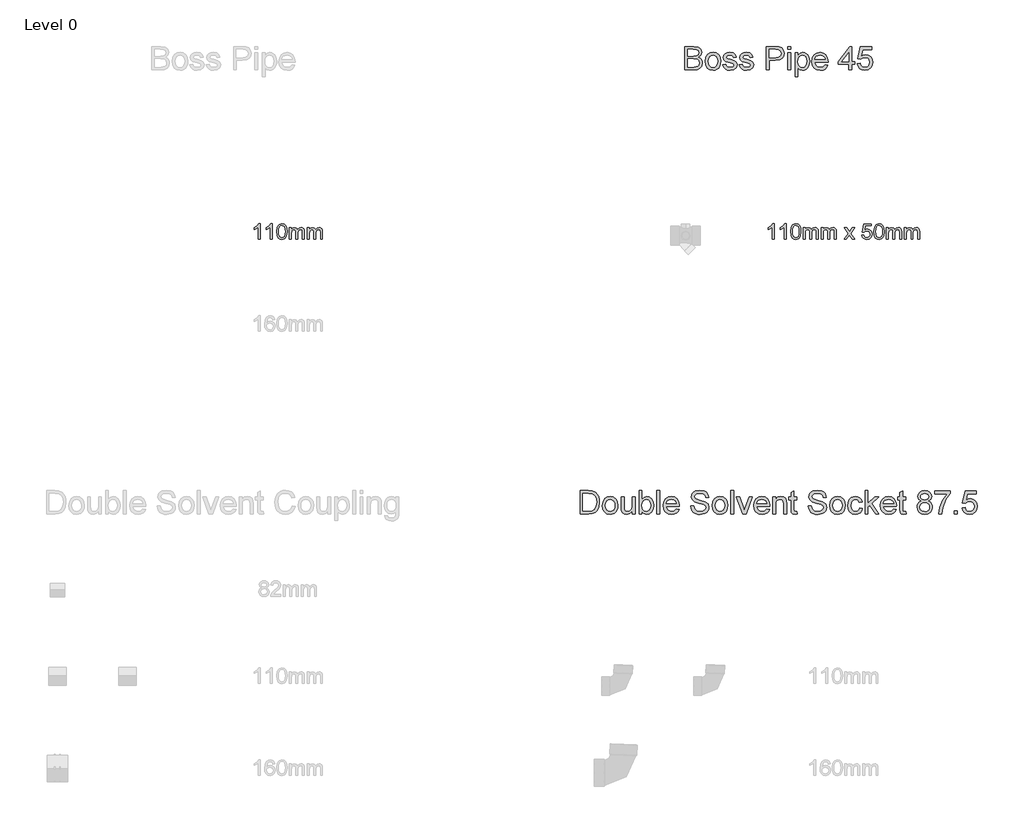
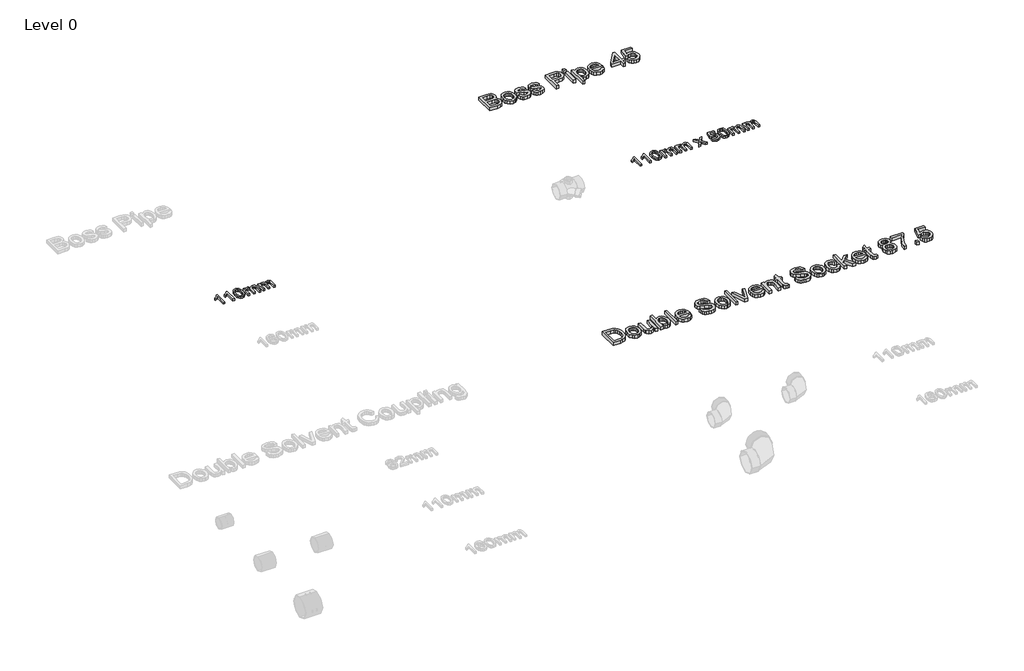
# One storey, part 28 of 28: 4 proxies.
"""IFC4 building model written with IfcOpenShell, lengths in millimetres."""

from ifc_helpers import new_model, si_unit, origin, origin_with_axes, place, context, project, spatial, polyline, outline, extrude, element, save

model = new_model("IFC4")

# Units and contexts
model_context = context("Model", 3, world=origin())
ifc_project = project(units=[si_unit("LENGTHUNIT", "METRE", prefix="MILLI")], contexts=[model_context])

# Site, building, storey
site = spatial("IfcSite", under=ifc_project)
building = spatial("IfcBuilding", under=site)
storey = spatial("IfcBuildingStorey", under=building, Name="Level 0", Elevation=0.0)

# Proxies
placement = place(None, origin())
element("IfcBuildingElementProxy", 1, Name="100mm Arial", ObjectType="100mm Arial", at=placement, inside=storey, context=model_context, shape_type="SweptSolid", body=[
    extrude(outline(polyline([(208.2706812, 8237.7167304), (195.9629889, 8237.7167304), (195.9629889, 8314.4474996), (184.3043351, 8306.1422111), (171.3476043, 8299.9282688), (171.3476043, 8311.5628842), (189.3884697, 8323.0773073), (200.3379889, 8336.1782688), (208.2706812, 8336.1782688), (208.2706812, 8237.7167304)])), origin_with_axes(), (0.0, 0.0, 1.0), 15.0),
    extrude(outline(polyline([(283.6552966, 8237.7167304), (271.3476043, 8237.7167304), (271.3476043, 8314.4474996), (259.6889505, 8306.1422111), (246.7322197, 8299.9282688), (246.7322197, 8311.5628842), (264.7730851, 8323.0773073), (275.7226043, 8336.1782688), (283.6552966, 8336.1782688), (283.6552966, 8237.7167304)])), origin_with_axes(), (0.0, 0.0, 1.0), 15.0),
    extrude(outline(polyline([(312.8860659, 8286.1542304), (316.5038543, 8314.4835573), (327.2490466, 8330.8176919), (345.1937582, 8336.1782688), (359.5687582, 8333.0051919), (369.4966428, 8323.8585573), (375.2658736, 8309.2912496), (377.5014505, 8286.1542304), (373.9197197, 8257.9450958), (363.2105851, 8241.5749035), (345.1937582, 8236.1782688), (332.4052966, 8238.5220188), (322.6937582, 8245.5532688), (315.3379889, 8262.2059131), (312.8860659, 8286.1542304)]), holes=[polyline([(325.1937582, 8286.1782688), (326.6360659, 8266.8182929), (330.9629889, 8255.613365), (337.4052966, 8250.2678121), (345.1937582, 8248.4859611), (352.9822197, 8250.2738217), (359.4245274, 8255.6374035), (363.7514505, 8266.848341), (365.1937582, 8286.1782688), (363.7995274, 8305.1025477), (359.6168351, 8316.394615), (353.1865466, 8322.0015861), (345.0495274, 8323.8705765), (337.3452005, 8322.2239419), (331.1552966, 8317.2840381), (326.6841428, 8305.2888458), (325.1937582, 8286.1782688)])]), origin_with_axes(), (0.0, 0.0, 1.0), 15.0),
    extrude(outline(polyline([(391.3476043, 8237.7167304), (391.3476043, 8310.0244227), (403.6552966, 8310.0244227), (403.6552966, 8298.1253842), (412.1168351, 8307.8729804), (424.1601043, 8311.5628842), (436.4918351, 8307.800865), (443.2706812, 8297.2599996), (452.8740466, 8307.9871631), (465.0014505, 8311.5628842), (474.2532534, 8310.0755044), (481.0952005, 8305.613365), (485.3229649, 8298.0562736), (486.7322197, 8287.2840381), (486.7322197, 8237.7167304), (474.4245274, 8237.7167304), (474.4245274, 8281.9955765), (473.2827005, 8292.2720188), (469.1480851, 8297.332115), (462.1168351, 8299.2551919), (450.0134697, 8294.3273073), (445.1937582, 8278.5340381), (445.1937582, 8237.7167304), (432.8860659, 8237.7167304), (432.8860659, 8283.3657688), (430.0375082, 8295.2888458), (420.6985659, 8299.2551919), (411.5879889, 8296.6109611), (405.5302966, 8288.8705765), (403.6552966, 8274.1830765), (403.6552966, 8237.7167304), (391.3476043, 8237.7167304)])), origin_with_axes(), (0.0, 0.0, 1.0), 15.0),
    extrude(outline(polyline([(505.1937582, 8237.7167304), (505.1937582, 8310.0244227), (517.5014505, 8310.0244227), (517.5014505, 8298.1253842), (525.9629889, 8307.8729804), (538.0062582, 8311.5628842), (550.3379889, 8307.800865), (557.1168351, 8297.2599996), (566.7202005, 8307.9871631), (578.8476043, 8311.5628842), (588.0994072, 8310.0755044), (594.9413543, 8305.613365), (599.1691187, 8298.0562736), (600.5783736, 8287.2840381), (600.5783736, 8237.7167304), (588.2706812, 8237.7167304), (588.2706812, 8281.9955765), (587.1288543, 8292.2720188), (582.9942389, 8297.332115), (575.9629889, 8299.2551919), (563.8596236, 8294.3273073), (559.039912, 8278.5340381), (559.039912, 8237.7167304), (546.7322197, 8237.7167304), (546.7322197, 8283.3657688), (543.883662, 8295.2888458), (534.5447197, 8299.2551919), (525.4341428, 8296.6109611), (519.3764505, 8288.8705765), (517.5014505, 8274.1830765), (517.5014505, 8237.7167304), (505.1937582, 8237.7167304)])), origin_with_axes(), (0.0, 0.0, 1.0), 15.0),
])
element("IfcBuildingElementProxy", 2, Name="100mm Arial", ObjectType="100mm Arial", at=placement, inside=storey, context=model_context, shape_type="SweptSolid", body=[
    extrude(outline(polyline([(3445.9629889, 8237.7167304), (3433.6552966, 8237.7167304), (3433.6552966, 8314.4474996), (3421.9966428, 8306.1422111), (3409.039912, 8299.9282688), (3409.039912, 8311.5628842), (3427.0807774, 8323.0773073), (3438.0302966, 8336.1782688), (3445.9629889, 8336.1782688), (3445.9629889, 8237.7167304)])), origin_with_axes(), (0.0, 0.0, 1.0), 15.0),
    extrude(outline(polyline([(3521.3476043, 8237.7167304), (3509.039912, 8237.7167304), (3509.039912, 8314.4474996), (3497.3812582, 8306.1422111), (3484.4245274, 8299.9282688), (3484.4245274, 8311.5628842), (3502.4653928, 8323.0773073), (3513.414912, 8336.1782688), (3521.3476043, 8336.1782688), (3521.3476043, 8237.7167304)])), origin_with_axes(), (0.0, 0.0, 1.0), 15.0),
    extrude(outline(polyline([(3550.5783736, 8286.1542304), (3554.196162, 8314.4835573), (3564.9413543, 8330.8176919), (3582.8860659, 8336.1782688), (3597.2610659, 8333.0051919), (3607.1889505, 8323.8585573), (3612.9581812, 8309.2912496), (3615.1937582, 8286.1542304), (3611.6120274, 8257.9450958), (3600.9028928, 8241.5749035), (3582.8860659, 8236.1782688), (3570.0976043, 8238.5220188), (3560.3860659, 8245.5532688), (3553.0302966, 8262.2059131), (3550.5783736, 8286.1542304)]), holes=[polyline([(3562.8860659, 8286.1782688), (3564.3283736, 8266.8182929), (3568.6552966, 8255.613365), (3575.0976043, 8250.2678121), (3582.8860659, 8248.4859611), (3590.6745274, 8250.2738217), (3597.1168351, 8255.6374035), (3601.4437582, 8266.848341), (3602.8860659, 8286.1782688), (3601.4918351, 8305.1025477), (3597.3091428, 8316.394615), (3590.8788543, 8322.0015861), (3582.7418351, 8323.8705765), (3575.0375082, 8322.2239419), (3568.8476043, 8317.2840381), (3564.3764505, 8305.2888458), (3562.8860659, 8286.1782688)])]), origin_with_axes(), (0.0, 0.0, 1.0), 15.0),
    extrude(outline(polyline([(3629.039912, 8237.7167304), (3629.039912, 8310.0244227), (3641.3476043, 8310.0244227), (3641.3476043, 8298.1253842), (3649.8091428, 8307.8729804), (3661.852412, 8311.5628842), (3674.1841428, 8307.800865), (3680.9629889, 8297.2599996), (3690.5663543, 8307.9871631), (3702.6937582, 8311.5628842), (3711.9455611, 8310.0755044), (3718.7875082, 8305.613365), (3723.0152726, 8298.0562736), (3724.4245274, 8287.2840381), (3724.4245274, 8237.7167304), (3712.1168351, 8237.7167304), (3712.1168351, 8281.9955765), (3710.9750082, 8292.2720188), (3706.8403928, 8297.332115), (3699.8091428, 8299.2551919), (3687.7057774, 8294.3273073), (3682.8860659, 8278.5340381), (3682.8860659, 8237.7167304), (3670.5783736, 8237.7167304), (3670.5783736, 8283.3657688), (3667.7298159, 8295.2888458), (3658.3908736, 8299.2551919), (3649.2802966, 8296.6109611), (3643.2226043, 8288.8705765), (3641.3476043, 8274.1830765), (3641.3476043, 8237.7167304), (3629.039912, 8237.7167304)])), origin_with_axes(), (0.0, 0.0, 1.0), 15.0),
    extrude(outline(polyline([(3742.8860659, 8237.7167304), (3742.8860659, 8310.0244227), (3755.1937582, 8310.0244227), (3755.1937582, 8298.1253842), (3763.6552966, 8307.8729804), (3775.6985659, 8311.5628842), (3788.0302966, 8307.800865), (3794.8091428, 8297.2599996), (3804.4125082, 8307.9871631), (3816.539912, 8311.5628842), (3825.7917149, 8310.0755044), (3832.633662, 8305.613365), (3836.8614264, 8298.0562736), (3838.2706812, 8287.2840381), (3838.2706812, 8237.7167304), (3825.9629889, 8237.7167304), (3825.9629889, 8281.9955765), (3824.821162, 8292.2720188), (3820.6865466, 8297.332115), (3813.6552966, 8299.2551919), (3801.5519312, 8294.3273073), (3796.7322197, 8278.5340381), (3796.7322197, 8237.7167304), (3784.4245274, 8237.7167304), (3784.4245274, 8283.3657688), (3781.5759697, 8295.2888458), (3772.2370274, 8299.2551919), (3763.1264505, 8296.6109611), (3757.0687582, 8288.8705765), (3755.1937582, 8274.1830765), (3755.1937582, 8237.7167304), (3742.8860659, 8237.7167304)])), origin_with_axes(), (0.0, 0.0, 1.0), 15.0),
    extrude(outline(polyline([(3887.5014505, 8237.7167304), (3913.7995274, 8274.0628842), (3889.039912, 8310.0244227), (3903.8476043, 8310.0244227), (3915.7947197, 8292.7167304), (3921.3716428, 8284.5436535), (3926.2033736, 8291.2263458), (3939.8091428, 8310.0244227), (3954.6168351, 8310.0244227), (3928.6072197, 8274.0628842), (3953.6552966, 8237.7167304), (3938.8476043, 8237.7167304), (3923.7754889, 8259.5676919), (3921.0110659, 8263.5580765), (3902.3091428, 8237.7167304), (3887.5014505, 8237.7167304)])), origin_with_axes(), (0.0, 0.0, 1.0), 15.0),
    extrude(outline(polyline([(3999.8091428, 8263.8705765), (4012.1168351, 8265.4090381), (4018.3187582, 8252.7287496), (4031.1793351, 8248.4859611), (4040.0014505, 8249.9613217), (4046.6120274, 8254.3874035), (4050.7406332, 8261.253389), (4052.1168351, 8270.0484611), (4046.9605851, 8284.6638458), (4040.4852245, 8288.6842785), (4031.3716428, 8290.0244227), (4020.5663543, 8287.8849996), (4013.6552966, 8282.332115), (4001.3476043, 8283.8705765), (4012.1168351, 8334.6398073), (4059.8091428, 8334.6398073), (4059.8091428, 8322.332115), (4022.0687582, 8322.332115), (4016.8043351, 8295.2167304), (4025.5964024, 8300.5532688), (4034.8091428, 8302.332115), (4046.3085418, 8300.1265861), (4055.8548159, 8293.5099996), (4062.2820995, 8283.425865), (4064.4245274, 8270.8176919), (4062.4954409, 8258.5099996), (4056.7081812, 8247.9811535), (4045.6264505, 8239.12899), (4031.1312582, 8236.1782688), (4019.0429168, 8238.0743025), (4009.4125082, 8243.7624035), (4002.8109457, 8252.581514), (3999.8091428, 8263.8705765)])), origin_with_axes(), (0.0, 0.0, 1.0), 15.0),
    extrude(outline(polyline([(4075.1937582, 8286.1542304), (4078.8115466, 8314.4835573), (4089.5567389, 8330.8176919), (4107.5014505, 8336.1782688), (4121.8764505, 8333.0051919), (4131.8043351, 8323.8585573), (4137.5735659, 8309.2912496), (4139.8091428, 8286.1542304), (4136.227412, 8257.9450958), (4125.5182774, 8241.5749035), (4107.5014505, 8236.1782688), (4094.7129889, 8238.5220188), (4085.0014505, 8245.5532688), (4077.6456812, 8262.2059131), (4075.1937582, 8286.1542304)]), holes=[polyline([(4087.5014505, 8286.1782688), (4088.9437582, 8266.8182929), (4093.2706812, 8255.613365), (4099.7129889, 8250.2678121), (4107.5014505, 8248.4859611), (4115.289912, 8250.2738217), (4121.7322197, 8255.6374035), (4126.0591428, 8266.848341), (4127.5014505, 8286.1782688), (4126.1072197, 8305.1025477), (4121.9245274, 8316.394615), (4115.4942389, 8322.0015861), (4107.3572197, 8323.8705765), (4099.6528928, 8322.2239419), (4093.4629889, 8317.2840381), (4088.9918351, 8305.2888458), (4087.5014505, 8286.1782688)])]), origin_with_axes(), (0.0, 0.0, 1.0), 15.0),
    extrude(outline(polyline([(4153.6552966, 8237.7167304), (4153.6552966, 8310.0244227), (4165.9629889, 8310.0244227), (4165.9629889, 8298.1253842), (4174.4245274, 8307.8729804), (4186.4677966, 8311.5628842), (4198.7995274, 8307.800865), (4205.5783736, 8297.2599996), (4215.1817389, 8307.9871631), (4227.3091428, 8311.5628842), (4236.5609457, 8310.0755044), (4243.4028928, 8305.613365), (4247.6306572, 8298.0562736), (4249.039912, 8287.2840381), (4249.039912, 8237.7167304), (4236.7322197, 8237.7167304), (4236.7322197, 8281.9955765), (4235.5903928, 8292.2720188), (4231.4557774, 8297.332115), (4224.4245274, 8299.2551919), (4212.321162, 8294.3273073), (4207.5014505, 8278.5340381), (4207.5014505, 8237.7167304), (4195.1937582, 8237.7167304), (4195.1937582, 8283.3657688), (4192.3452005, 8295.2888458), (4183.0062582, 8299.2551919), (4173.8956812, 8296.6109611), (4167.8379889, 8288.8705765), (4165.9629889, 8274.1830765), (4165.9629889, 8237.7167304), (4153.6552966, 8237.7167304)])), origin_with_axes(), (0.0, 0.0, 1.0), 15.0),
    extrude(outline(polyline([(4267.5014505, 8237.7167304), (4267.5014505, 8310.0244227), (4279.8091428, 8310.0244227), (4279.8091428, 8298.1253842), (4288.2706812, 8307.8729804), (4300.3139505, 8311.5628842), (4312.6456812, 8307.800865), (4319.4245274, 8297.2599996), (4329.0278928, 8307.9871631), (4341.1552966, 8311.5628842), (4350.4070995, 8310.0755044), (4357.2490466, 8305.613365), (4361.4768111, 8298.0562736), (4362.8860659, 8287.2840381), (4362.8860659, 8237.7167304), (4350.5783736, 8237.7167304), (4350.5783736, 8281.9955765), (4349.4365466, 8292.2720188), (4345.3019312, 8297.332115), (4338.2706812, 8299.2551919), (4326.1673159, 8294.3273073), (4321.3476043, 8278.5340381), (4321.3476043, 8237.7167304), (4309.039912, 8237.7167304), (4309.039912, 8283.3657688), (4306.1913543, 8295.2888458), (4296.852412, 8299.2551919), (4287.7418351, 8296.6109611), (4281.6841428, 8288.8705765), (4279.8091428, 8274.1830765), (4279.8091428, 8237.7167304), (4267.5014505, 8237.7167304)])), origin_with_axes(), (0.0, 0.0, 1.0), 15.0),
])
element("IfcBuildingElementProxy", 3, Name="150mm Arial", ObjectType="150mm Arial", at=placement, inside=storey, context=model_context, shape_type="SweptSolid", body=[
    extrude(outline(polyline([(2883.6258565, 9305.2145219), (2883.6258565, 9452.9068296), (2939.9840296, 9452.9068296), (2967.586193, 9448.5618777), (2976.8620344, 9443.049558), (2983.88427, 9435.2025027), (2989.7797027, 9416.3082719), (2984.82177, 9399.0546661), (2969.8397988, 9385.9837527), (2980.3010368, 9380.5210123), (2988.0309046, 9372.2097142), (2992.8040416, 9361.5997383), (2994.3950873, 9349.2409642), (2990.0501353, 9329.3912046), (2979.2869142, 9315.2565892), (2963.2232123, 9307.7565892), (2939.5513373, 9305.2145219), (2883.6258565, 9305.2145219)]), holes=[polyline([(2902.087395, 9323.6760604), (2939.9479719, 9323.6760604), (2953.649895, 9324.3972142), (2965.242443, 9328.4176469), (2972.9227315, 9336.6207719), (2975.9335488, 9349.0606758), (2972.399895, 9363.4116373), (2960.9515777, 9371.9753392), (2938.1450873, 9374.4452911), (2902.087395, 9374.4452911), (2902.087395, 9323.6760604)]), polyline([(2902.087395, 9392.9068296), (2935.8013373, 9392.9068296), (2955.4888373, 9394.4933681), (2967.3337892, 9401.3263008), (2971.3181642, 9413.3515411), (2967.6042219, 9425.3948104), (2956.9672027, 9432.5162046), (2933.2412411, 9434.4452911), (2902.087395, 9434.4452911), (2902.087395, 9392.9068296)])]), origin_with_axes(), (0.0, 0.0, 1.0), 25.0),
    extrude(outline(polyline([(3012.8566257, 9359.4452911), (3016.8500152, 9385.5961325), (3028.8301834, 9403.9765411), (3043.6318661, 9412.9819498), (3061.3542219, 9415.9837527), (3080.7487531, 9412.3284041), (3096.2400392, 9401.3623585), (3106.3947868, 9383.9510003), (3109.7797027, 9360.9597142), (3108.2833084, 9342.3088729), (3103.7941257, 9328.1111565), (3096.4428637, 9317.4786445), (3086.3602315, 9309.5234161), (3074.3845704, 9304.5609762), (3061.3542219, 9302.9068296), (3041.7253156, 9306.5486565), (3026.2520584, 9317.4741373), (3016.2054839, 9335.2505796), (3012.8566257, 9359.4452911)]), holes=[polyline([(3031.3181642, 9359.4813488), (3033.4545825, 9342.7731157), (3039.8638373, 9330.86957), (3049.50927, 9323.7436686), (3061.3542219, 9321.3683681), (3073.1450873, 9323.7571902), (3082.7724911, 9330.9236565), (3089.1817459, 9342.9849546), (3091.3181642, 9360.0582719), (3089.1682243, 9376.2797262), (3082.7184046, 9388.0210123), (3073.0774791, 9395.1469137), (3061.3542219, 9397.5222142), (3049.50927, 9395.1559282), (3039.8638373, 9388.05707), (3033.4545825, 9376.1805676), (3031.3181642, 9359.4813488)])]), origin_with_axes(), (0.0, 0.0, 1.0), 25.0),
    extrude(outline(polyline([(3123.6258565, 9337.5222142), (3142.087395, 9339.8299065), (3144.9990536, 9331.9332719), (3150.633068, 9326.1279835), (3170.212395, 9321.3683681), (3189.0345103, 9325.7313488), (3195.164318, 9335.9717335), (3188.9984527, 9344.2650027), (3169.9960488, 9349.5294258), (3142.195568, 9358.5618777), (3130.0621546, 9369.1087527), (3125.9335488, 9384.0005796), (3129.2508565, 9397.7565892), (3138.3013373, 9408.2674065), (3150.0381161, 9413.7301469), (3165.9215296, 9415.9837527), (3188.3854719, 9412.3599546), (3202.664318, 9402.5522623), (3209.0104719, 9385.9837527), (3190.5489334, 9383.6760604), (3183.6078277, 9393.8623585), (3167.3638373, 9397.5222142), (3149.695568, 9394.0246181), (3144.3950873, 9385.8755796), (3146.5946065, 9380.5029835), (3153.4816257, 9376.4284642), (3169.383068, 9372.4981758), (3196.4804238, 9363.8082719), (3209.0645584, 9353.9645219), (3213.6258565, 9337.9188488), (3208.2712892, 9320.2505796), (3192.820568, 9307.43207), (3169.9599911, 9302.9068296), (3151.3452075, 9305.08832), (3137.7604719, 9311.6327911), (3128.6919623, 9322.4681277), (3123.6258565, 9337.5222142)])), origin_with_axes(), (0.0, 0.0, 1.0), 25.0),
    extrude(outline(polyline([(3227.4720103, 9337.5222142), (3245.9335488, 9339.8299065), (3248.8452075, 9331.9332719), (3254.4792219, 9326.1279835), (3274.0585488, 9321.3683681), (3292.8806642, 9325.7313488), (3299.0104719, 9335.9717335), (3292.8446065, 9344.2650027), (3273.8422027, 9349.5294258), (3246.0417219, 9358.5618777), (3233.9083084, 9369.1087527), (3229.7797027, 9384.0005796), (3233.0970103, 9397.7565892), (3242.1474911, 9408.2674065), (3253.88427, 9413.7301469), (3269.7676834, 9415.9837527), (3292.2316257, 9412.3599546), (3306.5104719, 9402.5522623), (3312.8566257, 9385.9837527), (3294.3950873, 9383.6760604), (3287.4539815, 9393.8623585), (3271.2099911, 9397.5222142), (3253.5417219, 9394.0246181), (3248.2412411, 9385.8755796), (3250.4407603, 9380.5029835), (3257.3277796, 9376.4284642), (3273.2292219, 9372.4981758), (3300.3265777, 9363.8082719), (3312.9107123, 9353.9645219), (3317.4720103, 9337.9188488), (3312.117443, 9320.2505796), (3296.6667219, 9307.43207), (3273.806145, 9302.9068296), (3255.1913613, 9305.08832), (3241.6066257, 9311.6327911), (3232.5381161, 9322.4681277), (3227.4720103, 9337.5222142)])), origin_with_axes(), (0.0, 0.0, 1.0), 25.0),
    extrude(outline(polyline([(3398.2412411, 9305.2145219), (3398.2412411, 9452.9068296), (3452.976818, 9452.9068296), (3475.0441257, 9451.5005796), (3492.9828277, 9444.5955315), (3504.6114334, 9430.3166854), (3509.0104719, 9410.1784642), (3506.0402195, 9392.7716133), (3497.1294623, 9378.2674065), (3480.4663012, 9368.4777431), (3454.2388373, 9365.2145219), (3416.7027796, 9365.2145219), (3416.7027796, 9305.2145219), (3398.2412411, 9305.2145219)]), holes=[polyline([(3416.7027796, 9383.6760604), (3455.320568, 9383.6760604), (3471.6907603, 9385.3707719), (3482.508068, 9390.4549065), (3488.5387171, 9398.6129594), (3490.5489334, 9409.5294258), (3485.8073469, 9424.8178873), (3473.3494142, 9433.1832719), (3454.8878757, 9434.4452911), (3416.7027796, 9434.4452911), (3416.7027796, 9383.6760604)])]), origin_with_axes(), (0.0, 0.0, 1.0), 25.0),
    extrude(outline(polyline([(3532.087395, 9434.4452911), (3532.087395, 9452.9068296), (3550.5489334, 9452.9068296), (3550.5489334, 9434.4452911), (3532.087395, 9434.4452911)])), origin_with_axes(), (0.0, 0.0, 1.0), 25.0),
    extrude(outline(polyline([(3532.087395, 9305.2145219), (3532.087395, 9413.6760604), (3550.5489334, 9413.6760604), (3550.5489334, 9305.2145219), (3532.087395, 9305.2145219)])), origin_with_axes(), (0.0, 0.0, 1.0), 25.0),
    extrude(outline(polyline([(3578.2412411, 9263.6760604), (3578.2412411, 9413.6760604), (3596.7027796, 9413.6760604), (3596.7027796, 9395.5750988), (3609.4672027, 9410.8815892), (3626.7027796, 9415.9837527), (3639.1877555, 9414.1988969), (3650.1042219, 9408.8443296), (3658.992443, 9400.24457), (3665.3926834, 9388.7241373), (3670.5489334, 9360.2746181), (3669.0931041, 9344.4858561), (3664.7256161, 9330.3647623), (3657.586193, 9318.6279835), (3647.8145584, 9309.9921661), (3636.4338493, 9304.6781637), (3624.4672027, 9302.9068296), (3608.4035007, 9307.6484161), (3596.7027796, 9319.6375988), (3596.7027796, 9263.6760604), (3578.2412411, 9263.6760604)]), holes=[polyline([(3596.7027796, 9358.5799065), (3598.6994743, 9342.0294258), (3604.6895584, 9330.4549065), (3613.5282003, 9323.6400027), (3624.070568, 9321.3683681), (3634.7842099, 9323.7211325), (3643.8482123, 9330.7794258), (3650.0275993, 9342.7776229), (3652.087395, 9359.9500988), (3650.0771786, 9376.4104354), (3644.0465296, 9388.1472142), (3635.2214094, 9395.1784642), (3624.8277796, 9397.5222142), (3614.3935849, 9395.0297262), (3605.2304238, 9387.5522623), (3598.8346906, 9375.3241974), (3596.7027796, 9358.5799065)])]), origin_with_axes(), (0.0, 0.0, 1.0), 25.0),
    extrude(outline(polyline([(3767.2556642, 9337.5222142), (3785.3566257, 9335.2145219), (3778.8346906, 9321.5756998), (3768.4275392, 9311.3803873), (3754.3695464, 9305.025219), (3736.8950873, 9302.9068296), (3715.2334286, 9306.5621782), (3698.5657603, 9317.5282238), (3687.9377555, 9335.0928272), (3684.3950873, 9358.5438488), (3687.9738132, 9382.7836325), (3698.7099911, 9400.9116373), (3715.1522988, 9412.2157238), (3735.8494142, 9415.9837527), (3755.9019983, 9412.2247383), (3771.9251353, 9400.947695), (3782.4314454, 9382.8557479), (3785.9335488, 9358.6520219), (3785.8253757, 9353.6760604), (3702.8566257, 9353.6760604), (3706.0522387, 9339.8569498), (3713.4756161, 9329.697695), (3724.1892579, 9323.4506998), (3737.2556642, 9321.3683681), (3755.3566257, 9325.2265411), (3767.2556642, 9337.5222142)]), holes=[polyline([(3702.8566257, 9372.1375988), (3767.4720103, 9372.1375988), (3764.9750152, 9381.8912046), (3760.0801834, 9388.8683681), (3749.3169623, 9395.3587527), (3735.7772988, 9397.5222142), (3723.3328878, 9395.7959522), (3713.0429238, 9390.6171661), (3705.8899791, 9382.5447503), (3702.8566257, 9372.1375988)])]), origin_with_axes(), (0.0, 0.0, 1.0), 25.0),
    extrude(outline(polyline([(3917.4720103, 9305.2145219), (3917.4720103, 9339.8299065), (3850.5489334, 9339.8299065), (3850.5489334, 9358.291445), (3922.087395, 9450.5991373), (3935.9335488, 9450.5991373), (3935.9335488, 9358.291445), (3954.3950873, 9358.291445), (3954.3950873, 9339.8299065), (3935.9335488, 9339.8299065), (3935.9335488, 9305.2145219), (3917.4720103, 9305.2145219)]), holes=[polyline([(3917.4720103, 9358.291445), (3917.4720103, 9415.3347142), (3873.2652796, 9358.291445), (3917.4720103, 9358.291445)])]), origin_with_axes(), (0.0, 0.0, 1.0), 25.0),
    extrude(outline(polyline([(3970.5489334, 9344.4452911), (3989.0104719, 9346.7529835), (3992.399895, 9335.6697503), (3998.3133565, 9327.7325508), (4006.7238132, 9322.9594137), (4017.6042219, 9321.3683681), (4030.837395, 9323.5814089), (4040.7532603, 9330.2205315), (4046.946169, 9340.5195099), (4049.0104719, 9353.7121181), (4047.0768781, 9366.1339931), (4041.2760969, 9375.635195), (4031.563056, 9381.665844), (4017.8926834, 9383.6760604), (4001.6847507, 9380.4669258), (3991.3181642, 9372.1375988), (3972.8566257, 9374.4452911), (3989.0104719, 9450.5991373), (4060.5489334, 9450.5991373), (4060.5489334, 9432.1375988), (4003.9383565, 9432.1375988), (3996.0417219, 9391.4645219), (4009.2298228, 9399.4693296), (4023.0489334, 9402.1375988), (4040.298032, 9398.8293056), (4054.617443, 9388.9044258), (4064.2583685, 9373.7782238), (4067.4720103, 9354.8659642), (4064.5783805, 9336.4044258), (4055.8974911, 9320.6111565), (4039.274895, 9307.3329113), (4017.5321065, 9302.9068296), (3999.3995945, 9305.7508801), (3984.9539815, 9314.2830315), (3975.0516378, 9327.5116974), (3970.5489334, 9344.4452911)])), origin_with_axes(), (0.0, 0.0, 1.0), 25.0),
])
element("IfcBuildingElementProxy", 4, Name="150mm Arial", ObjectType="150mm Arial", at=placement, inside=storey, context=model_context, shape_type="SweptSolid", body=[
    extrude(outline(polyline([(2223.6258565, 6505.2145219), (2223.6258565, 6652.9068296), (2274.5753757, 6652.9068296), (2300.9335488, 6650.7794258), (2322.6402796, 6640.2145219), (2332.8536209, 6628.9645219), (2340.1282603, 6614.9741373), (2344.4822267, 6598.5138008), (2345.9335488, 6579.853945), (2342.0032603, 6550.0522623), (2331.9071065, 6528.5438488), (2318.4215296, 6515.1484161), (2300.7712892, 6507.7385604), (2277.0272988, 6505.2145219), (2223.6258565, 6505.2145219)]), holes=[polyline([(2242.087395, 6523.6760604), (2274.7556642, 6523.6760604), (2298.5176834, 6526.3443296), (2312.2196065, 6533.8803873), (2323.4515777, 6552.2157238), (2327.4720103, 6580.1424065), (2325.5023589, 6600.2625988), (2319.5934046, 6615.1183681), (2310.8629358, 6625.322695), (2300.4287411, 6631.4885604), (2274.2508565, 6634.4452911), (2242.087395, 6634.4452911), (2242.087395, 6523.6760604)])]), origin_with_axes(), (0.0, 0.0, 1.0), 25.0),
    extrude(outline(polyline([(2364.3950873, 6559.4452911), (2368.3884767, 6585.5961325), (2380.368645, 6603.9765411), (2395.1703277, 6612.9819498), (2412.8926834, 6615.9837527), (2432.2872147, 6612.3284041), (2447.7785007, 6601.3623585), (2457.9332483, 6583.9510003), (2461.3181642, 6560.9597142), (2459.82177, 6542.3088729), (2455.3325873, 6528.1111565), (2447.9813253, 6517.4786445), (2437.898693, 6509.5234161), (2425.923032, 6504.5609762), (2412.8926834, 6502.9068296), (2393.2637772, 6506.5486565), (2377.79052, 6517.4741373), (2367.7439454, 6535.2505796), (2364.3950873, 6559.4452911)]), holes=[polyline([(2382.8566257, 6559.4813488), (2384.993044, 6542.7731157), (2391.4022988, 6530.86957), (2401.0477315, 6523.7436686), (2412.8926834, 6521.3683681), (2424.6835488, 6523.7571902), (2434.3109527, 6530.9236565), (2440.7202075, 6542.9849546), (2442.8566257, 6560.0582719), (2440.7066858, 6576.2797262), (2434.2568661, 6588.0210123), (2424.6159406, 6595.1469137), (2412.8926834, 6597.5222142), (2401.0477315, 6595.1559282), (2391.4022988, 6588.05707), (2384.993044, 6576.1805676), (2382.8566257, 6559.4813488)])]), origin_with_axes(), (0.0, 0.0, 1.0), 25.0),
    extrude(outline(polyline([(2551.3181642, 6505.2145219), (2551.3181642, 6523.8563488), (2536.8590296, 6508.1442094), (2518.0008565, 6502.9068296), (2500.6390777, 6506.5847142), (2488.6679238, 6515.8154835), (2483.1691257, 6529.4092335), (2482.087395, 6546.572695), (2482.087395, 6613.6760604), (2500.5489334, 6613.6760604), (2500.5489334, 6555.2625988), (2501.6667219, 6536.4404835), (2508.9684046, 6525.3888008), (2522.7244142, 6521.3683681), (2538.1390777, 6525.478945), (2548.3253757, 6536.6748585), (2551.3181642, 6557.2457719), (2551.3181642, 6613.6760604), (2569.7797027, 6613.6760604), (2569.7797027, 6505.2145219), (2551.3181642, 6505.2145219)])), origin_with_axes(), (0.0, 0.0, 1.0), 25.0),
    extrude(outline(polyline([(2613.6258565, 6505.2145219), (2595.164318, 6505.2145219), (2595.164318, 6652.9068296), (2613.6258565, 6652.9068296), (2613.6258565, 6598.135195), (2626.5525392, 6611.5216133), (2642.6162411, 6615.9837527), (2661.1138373, 6611.96332), (2675.4647988, 6600.6592335), (2684.2809046, 6583.0811085), (2687.4720103, 6561.0678873), (2684.1682243, 6536.4224546), (2674.2568661, 6518.0871181), (2659.7120945, 6506.7019017), (2642.508068, 6502.9068296), (2626.0928036, 6507.8016613), (2613.6258565, 6522.4861565), (2613.6258565, 6505.2145219)]), holes=[polyline([(2613.6258565, 6560.2025027), (2614.8878757, 6544.8058681), (2618.6739334, 6534.385195), (2628.3464094, 6524.6225748), (2640.9215296, 6521.3683681), (2651.5765777, 6523.7662046), (2660.681145, 6530.9597142), (2666.9281402, 6542.9038248), (2669.0104719, 6559.5534642), (2667.0137772, 6576.4464931), (2661.023693, 6588.2553873), (2652.2030801, 6595.2055075), (2641.7147988, 6597.5222142), (2631.0597507, 6595.1243777), (2621.9551834, 6587.9308681), (2615.7081882, 6576.2031036), (2613.6258565, 6560.2025027)])]), origin_with_axes(), (0.0, 0.0, 1.0), 25.0),
    extrude(outline(polyline([(2708.2412411, 6505.2145219), (2708.2412411, 6652.9068296), (2726.7027796, 6652.9068296), (2726.7027796, 6505.2145219), (2708.2412411, 6505.2145219)])), origin_with_axes(), (0.0, 0.0, 1.0), 25.0),
    extrude(outline(polyline([(2830.3325873, 6537.5222142), (2848.4335488, 6535.2145219), (2841.9116137, 6521.5756998), (2831.5044623, 6511.3803873), (2817.4464695, 6505.025219), (2799.9720103, 6502.9068296), (2778.3103517, 6506.5621782), (2761.6426834, 6517.5282238), (2751.0146786, 6535.0928272), (2747.4720103, 6558.5438488), (2751.0507363, 6582.7836325), (2761.7869142, 6600.9116373), (2778.2292219, 6612.2157238), (2798.9263373, 6615.9837527), (2818.9789214, 6612.2247383), (2835.0020584, 6600.947695), (2845.5083685, 6582.8557479), (2849.0104719, 6558.6520219), (2848.9022988, 6553.6760604), (2765.9335488, 6553.6760604), (2769.1291618, 6539.8569498), (2776.5525392, 6529.697695), (2787.266181, 6523.4506998), (2800.3325873, 6521.3683681), (2818.4335488, 6525.2265411), (2830.3325873, 6537.5222142)]), holes=[polyline([(2765.9335488, 6572.1375988), (2830.5489334, 6572.1375988), (2828.0519382, 6581.8912046), (2823.1571065, 6588.8683681), (2812.3938853, 6595.3587527), (2798.8542219, 6597.5222142), (2786.4098108, 6595.7959522), (2776.1198469, 6590.6171661), (2768.9669022, 6582.5447503), (2765.9335488, 6572.1375988)])]), origin_with_axes(), (0.0, 0.0, 1.0), 25.0),
    extrude(outline(polyline([(2920.5489334, 6555.9837527), (2939.0104719, 6555.9837527), (2944.9599911, 6537.5041854), (2959.4912411, 6525.8214931), (2981.6306642, 6521.3683681), (3000.9215296, 6524.7397623), (3013.3794623, 6534.0065892), (3017.4720103, 6546.3924065), (3014.4071065, 6557.9128392), (3001.8590296, 6566.2962527), (2974.97802, 6573.3455315), (2946.0417219, 6582.4500988), (2930.3385969, 6596.1880796), (2925.164318, 6614.541445), (2926.7643781, 6625.3542455), (2931.5645584, 6635.4368777), (2939.438657, 6643.9825508), (2950.2604719, 6650.1844738), (2977.6282603, 6655.2145219), (3006.8349911, 6649.9500988), (3018.0309046, 6643.4506998), (3026.306145, 6634.4813488), (3031.5435248, 6623.6009402), (3033.6258565, 6611.3683681), (3015.164318, 6611.3683681), (3011.774895, 6622.3839931), (3004.7075873, 6630.3347142), (2993.664919, 6635.1484161), (2978.3494142, 6636.7529835), (2962.6733325, 6635.166445), (2951.9191257, 6630.4068296), (2945.6991738, 6623.4026229), (2943.6258565, 6615.0823104), (2945.0952075, 6607.9879594), (2949.5032603, 6602.2818296), (2979.6474911, 6591.9693296), (3012.3157603, 6582.7025027), (3022.8400993, 6576.0047863), (3030.1823469, 6567.7385604), (3035.9335488, 6546.8611565), (3034.2794022, 6535.4804474), (3029.3169623, 6524.77582), (3021.2490536, 6515.5630796), (3010.2785007, 6508.6580315), (2982.351818, 6502.9068296), (2964.2643781, 6504.4573104), (2949.3770584, 6509.1087527), (2937.5185849, 6516.8791854), (2928.5176834, 6527.7866373), (2922.7394382, 6541.0738969), (2920.5489334, 6555.9837527)])), origin_with_axes(), (0.0, 0.0, 1.0), 25.0),
    extrude(outline(polyline([(3056.7027796, 6559.4452911), (3060.696169, 6585.5961325), (3072.6763373, 6603.9765411), (3087.47802, 6612.9819498), (3105.2003757, 6615.9837527), (3124.594907, 6612.3284041), (3140.086193, 6601.3623585), (3150.2409406, 6583.9510003), (3153.6258565, 6560.9597142), (3152.1294623, 6542.3088729), (3147.6402796, 6528.1111565), (3140.2890176, 6517.4786445), (3130.2063853, 6509.5234161), (3118.2307243, 6504.5609762), (3105.2003757, 6502.9068296), (3085.5714695, 6506.5486565), (3070.0982123, 6517.4741373), (3060.0516378, 6535.2505796), (3056.7027796, 6559.4452911)]), holes=[polyline([(3075.164318, 6559.4813488), (3077.3007363, 6542.7731157), (3083.7099911, 6530.86957), (3093.3554238, 6523.7436686), (3105.2003757, 6521.3683681), (3116.9912411, 6523.7571902), (3126.618645, 6530.9236565), (3133.0278998, 6542.9849546), (3135.164318, 6560.0582719), (3133.0143781, 6576.2797262), (3126.5645584, 6588.0210123), (3116.9236329, 6595.1469137), (3105.2003757, 6597.5222142), (3093.3554238, 6595.1559282), (3083.7099911, 6588.05707), (3077.3007363, 6576.1805676), (3075.164318, 6559.4813488)])]), origin_with_axes(), (0.0, 0.0, 1.0), 25.0),
    extrude(outline(polyline([(3174.3950873, 6505.2145219), (3174.3950873, 6652.9068296), (3192.8566257, 6652.9068296), (3192.8566257, 6505.2145219), (3174.3950873, 6505.2145219)])), origin_with_axes(), (0.0, 0.0, 1.0), 25.0),
    extrude(outline(polyline([(3247.1595103, 6505.2145219), (3209.0104719, 6613.6760604), (3228.5537411, 6613.6760604), (3251.6667219, 6548.7000988), (3258.6258565, 6526.8491373), (3265.4407603, 6547.4741373), (3288.6979719, 6613.6760604), (3308.2412411, 6613.6760604), (3270.5609527, 6505.2145219), (3247.1595103, 6505.2145219)])), origin_with_axes(), (0.0, 0.0, 1.0), 25.0),
    extrude(outline(polyline([(3400.3325873, 6537.5222142), (3418.4335488, 6535.2145219), (3411.9116137, 6521.5756998), (3401.5044623, 6511.3803873), (3387.4464695, 6505.025219), (3369.9720103, 6502.9068296), (3348.3103517, 6506.5621782), (3331.6426834, 6517.5282238), (3321.0146786, 6535.0928272), (3317.4720103, 6558.5438488), (3321.0507363, 6582.7836325), (3331.7869142, 6600.9116373), (3348.2292219, 6612.2157238), (3368.9263373, 6615.9837527), (3388.9789214, 6612.2247383), (3405.0020584, 6600.947695), (3415.5083685, 6582.8557479), (3419.0104719, 6558.6520219), (3418.9022988, 6553.6760604), (3335.9335488, 6553.6760604), (3339.1291618, 6539.8569498), (3346.5525392, 6529.697695), (3357.266181, 6523.4506998), (3370.3325873, 6521.3683681), (3388.4335488, 6525.2265411), (3400.3325873, 6537.5222142)]), holes=[polyline([(3335.9335488, 6572.1375988), (3400.5489334, 6572.1375988), (3398.0519382, 6581.8912046), (3393.1571065, 6588.8683681), (3382.3938853, 6595.3587527), (3368.8542219, 6597.5222142), (3356.4098108, 6595.7959522), (3346.1198469, 6590.6171661), (3338.9669022, 6582.5447503), (3335.9335488, 6572.1375988)])]), origin_with_axes(), (0.0, 0.0, 1.0), 25.0),
    extrude(outline(polyline([(3437.4720103, 6505.2145219), (3437.4720103, 6613.6760604), (3455.9335488, 6613.6760604), (3455.9335488, 6598.5318296), (3470.0501353, 6611.6207719), (3489.3229719, 6615.9837527), (3506.7568661, 6612.4681277), (3518.6559046, 6603.2373585), (3524.1907603, 6589.6616373), (3525.164318, 6571.8130796), (3525.164318, 6505.2145219), (3506.7027796, 6505.2145219), (3506.7027796, 6569.3250988), (3504.5753757, 6585.6592335), (3497.0573469, 6594.2950508), (3484.383068, 6597.5222142), (3473.5702676, 6595.7103152), (3464.35302, 6590.2746181), (3458.0384166, 6579.7728152), (3455.9335488, 6562.7625988), (3455.9335488, 6505.2145219), (3437.4720103, 6505.2145219)])), origin_with_axes(), (0.0, 0.0, 1.0), 25.0),
    extrude(outline(polyline([(3589.7797027, 6520.6111565), (3592.087395, 6504.6736565), (3578.2772988, 6502.9068296), (3562.8085488, 6505.9717335), (3555.0922027, 6514.0125988), (3552.8566257, 6534.9621181), (3552.8566257, 6595.2145219), (3539.0104719, 6595.2145219), (3539.0104719, 6613.6760604), (3552.8566257, 6613.6760604), (3552.8566257, 6640.0342335), (3571.3181642, 6650.8875988), (3571.3181642, 6613.6760604), (3589.7797027, 6613.6760604), (3589.7797027, 6595.2145219), (3571.3181642, 6595.2145219), (3571.3181642, 6535.5029835), (3572.2917219, 6525.9837527), (3575.44677, 6522.6123585), (3581.7388373, 6521.3683681), (3589.7797027, 6520.6111565)])), origin_with_axes(), (0.0, 0.0, 1.0), 25.0),
    extrude(outline(polyline([(3661.3181642, 6555.9837527), (3679.7797027, 6555.9837527), (3685.7292219, 6537.5041854), (3700.2604719, 6525.8214931), (3722.399895, 6521.3683681), (3741.6907603, 6524.7397623), (3754.148693, 6534.0065892), (3758.2412411, 6546.3924065), (3755.1763373, 6557.9128392), (3742.6282603, 6566.2962527), (3715.7472507, 6573.3455315), (3686.8109527, 6582.4500988), (3671.1078277, 6596.1880796), (3665.9335488, 6614.541445), (3667.5336089, 6625.3542455), (3672.3337892, 6635.4368777), (3680.2078878, 6643.9825508), (3691.0297027, 6650.1844738), (3718.3974911, 6655.2145219), (3747.6042219, 6649.9500988), (3758.8001353, 6643.4506998), (3767.0753757, 6634.4813488), (3772.3127555, 6623.6009402), (3774.3950873, 6611.3683681), (3755.9335488, 6611.3683681), (3752.5441257, 6622.3839931), (3745.476818, 6630.3347142), (3734.4341498, 6635.1484161), (3719.118645, 6636.7529835), (3703.4425632, 6635.166445), (3692.6883565, 6630.4068296), (3686.4684046, 6623.4026229), (3684.3950873, 6615.0823104), (3685.8644382, 6607.9879594), (3690.2724911, 6602.2818296), (3720.4167219, 6591.9693296), (3753.0849911, 6582.7025027), (3763.6093301, 6576.0047863), (3770.9515777, 6567.7385604), (3776.7027796, 6546.8611565), (3775.0486329, 6535.4804474), (3770.086193, 6524.77582), (3762.0182844, 6515.5630796), (3751.0477315, 6508.6580315), (3723.1210488, 6502.9068296), (3705.0336089, 6504.4573104), (3690.1462892, 6509.1087527), (3678.2878156, 6516.8791854), (3669.2869142, 6527.7866373), (3663.508669, 6541.0738969), (3661.3181642, 6555.9837527)])), origin_with_axes(), (0.0, 0.0, 1.0), 25.0),
    extrude(outline(polyline([(3797.4720103, 6559.4452911), (3801.4653998, 6585.5961325), (3813.445568, 6603.9765411), (3828.2472507, 6612.9819498), (3845.9696065, 6615.9837527), (3865.3641378, 6612.3284041), (3880.8554238, 6601.3623585), (3891.0101714, 6583.9510003), (3894.3950873, 6560.9597142), (3892.898693, 6542.3088729), (3888.4095103, 6528.1111565), (3881.0582483, 6517.4786445), (3870.9756161, 6509.5234161), (3858.9999551, 6504.5609762), (3845.9696065, 6502.9068296), (3826.3407003, 6506.5486565), (3810.867443, 6517.4741373), (3800.8208685, 6535.2505796), (3797.4720103, 6559.4452911)]), holes=[polyline([(3815.9335488, 6559.4813488), (3818.0699671, 6542.7731157), (3824.4792219, 6530.86957), (3834.1246546, 6523.7436686), (3845.9696065, 6521.3683681), (3857.7604719, 6523.7571902), (3867.3878757, 6530.9236565), (3873.7971305, 6542.9849546), (3875.9335488, 6560.0582719), (3873.7836089, 6576.2797262), (3867.3337892, 6588.0210123), (3857.6928637, 6595.1469137), (3845.9696065, 6597.5222142), (3834.1246546, 6595.1559282), (3824.4792219, 6588.05707), (3818.0699671, 6576.1805676), (3815.9335488, 6559.4813488)])]), origin_with_axes(), (0.0, 0.0, 1.0), 25.0),
    extrude(outline(polyline([(3984.3950873, 6544.4452911), (4002.8566257, 6542.1375988), (3997.7093902, 6525.7178272), (3988.0369142, 6513.3094738), (3974.7496546, 6505.5074907), (3958.758068, 6502.9068296), (3939.1201474, 6506.5351349), (3923.7640777, 6517.4200508), (3913.8527195, 6535.0838128), (3910.5489334, 6559.0486565), (3916.1919623, 6589.7157238), (3923.3133565, 6601.2136205), (3933.3914815, 6609.4212527), (3945.4482724, 6614.3431277), (3958.5056642, 6615.9837527), (3974.1051233, 6613.7301469), (3986.5765777, 6606.9693296), (3995.5233926, 6596.0618777), (4000.5489334, 6581.3683681), (3982.087395, 6579.0606758), (3973.523693, 6592.8888008), (3958.649895, 6597.5222142), (3946.719306, 6595.2415652), (3937.2496546, 6588.3996181), (3931.0702676, 6576.6267815), (3929.0104719, 6559.5534642), (3931.0251954, 6542.2502791), (3937.0693661, 6530.4368777), (3946.3677435, 6523.6354955), (3958.1450873, 6521.3683681), (3967.7048829, 6522.7836325), (3975.5429238, 6527.0294258), (3981.2445464, 6534.213921), (3984.3950873, 6544.4452911)])), origin_with_axes(), (0.0, 0.0, 1.0), 25.0),
    extrude(outline(polyline([(4019.0104719, 6505.2145219), (4019.0104719, 6652.9068296), (4037.4720103, 6652.9068296), (4037.4720103, 6573.5438488), (4078.8662411, 6613.6760604), (4104.3950873, 6613.6760604), (4062.4960488, 6573.0390411), (4106.7027796, 6505.2145219), (4085.1402796, 6505.2145219), (4049.2628757, 6560.2025027), (4037.4720103, 6548.7722142), (4037.4720103, 6505.2145219), (4019.0104719, 6505.2145219)])), origin_with_axes(), (0.0, 0.0, 1.0), 25.0),
    extrude(outline(polyline([(4198.7941257, 6537.5222142), (4216.8950873, 6535.2145219), (4210.3731522, 6521.5756998), (4199.9660007, 6511.3803873), (4185.9080079, 6505.025219), (4168.4335488, 6502.9068296), (4146.7718902, 6506.5621782), (4130.1042219, 6517.5282238), (4119.4762171, 6535.0928272), (4115.9335488, 6558.5438488), (4119.5122748, 6582.7836325), (4130.2484527, 6600.9116373), (4146.6907603, 6612.2157238), (4167.3878757, 6615.9837527), (4187.4404599, 6612.2247383), (4203.4635969, 6600.947695), (4213.969907, 6582.8557479), (4217.4720103, 6558.6520219), (4217.3638373, 6553.6760604), (4134.3950873, 6553.6760604), (4137.5907003, 6539.8569498), (4145.0140777, 6529.697695), (4155.7277195, 6523.4506998), (4168.7941257, 6521.3683681), (4186.8950873, 6525.2265411), (4198.7941257, 6537.5222142)]), holes=[polyline([(4134.3950873, 6572.1375988), (4199.0104719, 6572.1375988), (4196.5134767, 6581.8912046), (4191.618645, 6588.8683681), (4180.8554238, 6595.3587527), (4167.3157603, 6597.5222142), (4154.8713493, 6595.7959522), (4144.5813853, 6590.6171661), (4137.4284406, 6582.5447503), (4134.3950873, 6572.1375988)])]), origin_with_axes(), (0.0, 0.0, 1.0), 25.0),
    extrude(outline(polyline([(4275.164318, 6520.6111565), (4277.4720103, 6504.6736565), (4263.6619142, 6502.9068296), (4248.1931642, 6505.9717335), (4240.476818, 6514.0125988), (4238.2412411, 6534.9621181), (4238.2412411, 6595.2145219), (4224.3950873, 6595.2145219), (4224.3950873, 6613.6760604), (4238.2412411, 6613.6760604), (4238.2412411, 6640.0342335), (4256.7027796, 6650.8875988), (4256.7027796, 6613.6760604), (4275.164318, 6613.6760604), (4275.164318, 6595.2145219), (4256.7027796, 6595.2145219), (4256.7027796, 6535.5029835), (4257.6763373, 6525.9837527), (4260.8313853, 6522.6123585), (4267.1234527, 6521.3683681), (4275.164318, 6520.6111565)])), origin_with_axes(), (0.0, 0.0, 1.0), 25.0),
    extrude(outline(polyline([(4373.601818, 6586.5606758), (4356.7809046, 6598.0270219), (4351.3181642, 6615.8755796), (4354.2929238, 6630.307671), (4363.2172027, 6642.2337527), (4377.0903998, 6650.2385604), (4394.9119142, 6652.9068296), (4412.8416017, 6650.1754594), (4426.8950873, 6641.9813488), (4435.9816257, 6629.8659642), (4439.0104719, 6615.3707719), (4433.6198469, 6597.9729354), (4417.2676834, 6586.5606758), (4428.6303637, 6580.705808), (4436.9010969, 6572.0835123), (4441.9446666, 6561.1084522), (4443.6258565, 6548.1952911), (4440.29052, 6530.5450508), (4430.2845103, 6515.9597142), (4414.8337892, 6506.1700508), (4395.164318, 6502.9068296), (4375.4948469, 6506.1835724), (4360.0441257, 6516.0138008), (4350.0381161, 6530.7388609), (4346.7027796, 6548.7000988), (4348.4515777, 6562.1135604), (4353.6979719, 6573.1472142), (4362.1715296, 6581.4224546), (4373.601818, 6586.5606758)]), holes=[polyline([(4365.164318, 6549.3491373), (4368.2472507, 6535.4488969), (4379.1547027, 6525.0462527), (4395.3085488, 6521.3683681), (4407.8746546, 6523.3019618), (4417.3037411, 6529.1027431), (4423.1991738, 6537.8872984), (4425.164318, 6548.7722142), (4423.1360728, 6559.8419258), (4417.0513373, 6568.8202911), (4407.4059046, 6574.7698104), (4394.695568, 6576.7529835), (4382.3052435, 6574.7968536), (4372.9708084, 6568.9284642), (4367.1159406, 6560.1213729), (4365.164318, 6549.3491373)]), polyline([(4369.7797027, 6615.3347142), (4371.4158204, 6607.27582), (4376.3241738, 6600.8395219), (4384.360532, 6596.6207719), (4395.3806642, 6595.2145219), (4406.1438853, 6596.6117575), (4414.0585488, 6600.8034642), (4418.9263373, 6607.0234161), (4420.5489334, 6614.5053873), (4418.8722507, 6622.2713128), (4413.8422027, 6628.6940892), (4405.8193661, 6633.0074907), (4395.164318, 6634.4452911), (4384.4416618, 6633.0390411), (4376.4323469, 6628.8202911), (4371.4428637, 6622.6363969), (4369.7797027, 6615.3347142)])]), origin_with_axes(), (0.0, 0.0, 1.0), 25.0),
    extrude(outline(polyline([(4459.7797027, 6632.1375988), (4459.7797027, 6650.5991373), (4556.7027796, 6650.5991373), (4556.7027796, 6635.6712527), (4529.2087892, 6595.9537046), (4508.1691257, 6545.3467335), (4501.3181642, 6505.2145219), (4482.8566257, 6505.2145219), (4490.1943661, 6546.8611565), (4510.3325873, 6593.9344738), (4538.2412411, 6632.1375988), (4459.7797027, 6632.1375988)])), origin_with_axes(), (0.0, 0.0, 1.0), 25.0),
    extrude(outline(polyline([(4582.087395, 6505.2145219), (4582.087395, 6523.6760604), (4600.5489334, 6523.6760604), (4600.5489334, 6505.2145219), (4582.087395, 6505.2145219)])), origin_with_axes(), (0.0, 0.0, 1.0), 25.0),
    extrude(outline(polyline([(4630.5489334, 6544.4452911), (4649.0104719, 6546.7529835), (4652.399895, 6535.6697503), (4658.3133565, 6527.7325508), (4666.7238132, 6522.9594137), (4677.6042219, 6521.3683681), (4690.837395, 6523.5814089), (4700.7532603, 6530.2205315), (4706.946169, 6540.5195099), (4709.0104719, 6553.7121181), (4707.0768781, 6566.1339931), (4701.2760969, 6575.635195), (4691.563056, 6581.665844), (4677.8926834, 6583.6760604), (4661.6847507, 6580.4669258), (4651.3181642, 6572.1375988), (4632.8566257, 6574.4452911), (4649.0104719, 6650.5991373), (4720.5489334, 6650.5991373), (4720.5489334, 6632.1375988), (4663.9383565, 6632.1375988), (4656.0417219, 6591.4645219), (4669.2298228, 6599.4693296), (4683.0489334, 6602.1375988), (4700.298032, 6598.8293056), (4714.617443, 6588.9044258), (4724.2583685, 6573.7782238), (4727.4720103, 6554.8659642), (4724.5783805, 6536.4044258), (4715.8974911, 6520.6111565), (4699.274895, 6507.3329113), (4677.5321065, 6502.9068296), (4659.3995945, 6505.7508801), (4644.9539815, 6514.2830315), (4635.0516378, 6527.5116974), (4630.5489334, 6544.4452911)])), origin_with_axes(), (0.0, 0.0, 1.0), 25.0),
])

save(model, "model.ifc")
